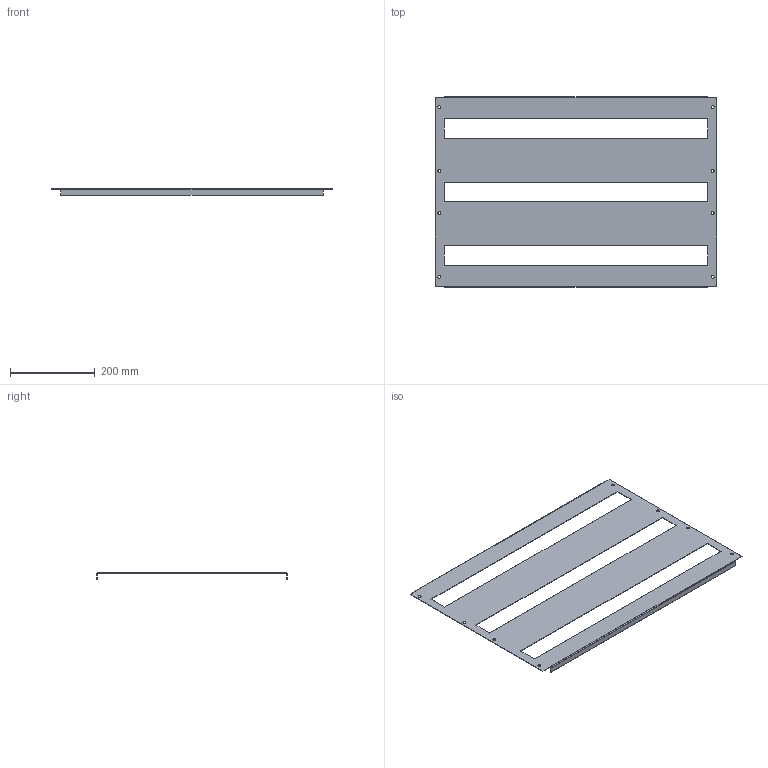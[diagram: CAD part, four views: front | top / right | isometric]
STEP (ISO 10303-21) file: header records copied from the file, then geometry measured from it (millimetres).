
FILE_DESCRIPTION (( 'STEP AP214' ), '1' );
FILE_NAME ('MB 45.70 P Ïàíåëü ìîäóëüíàÿ ñ âûðåçîì.STEP', '2016-07-06T11:01:31', ( '' ), ( '' ), 'SwSTEP 2.0', 'SolidWorks 2012', '' );
FILE_SCHEMA (( 'AUTOMOTIVE_DESIGN' ));
Length unit declared in the file: millimetre
Products named in the file (1): MB 45.70 P Ïàíåëü ìîäóëüíàÿ ñ âûðåçîì
Bounding box: 665 x 449 x 15 mm (x, y, z)
Volume: 273852.3 mm3; surface area: 464184.6 mm2
Topology: 1 solids, 1 shells, 54 faces, 140 edges, 88 vertices
Faces by surface type: plane 34, cylinder 20
Entity records: 1714 total; most frequent: DIRECTION 290, CARTESIAN_POINT 283, ORIENTED_EDGE 280, EDGE_CURVE 140, VECTOR 100, LINE 100, AXIS2_PLACEMENT_3D 95, VERTEX_POINT 88
